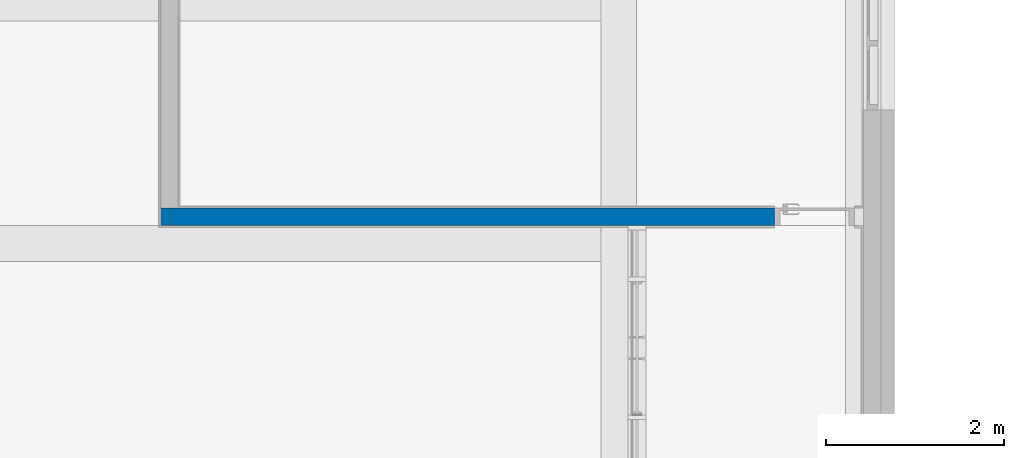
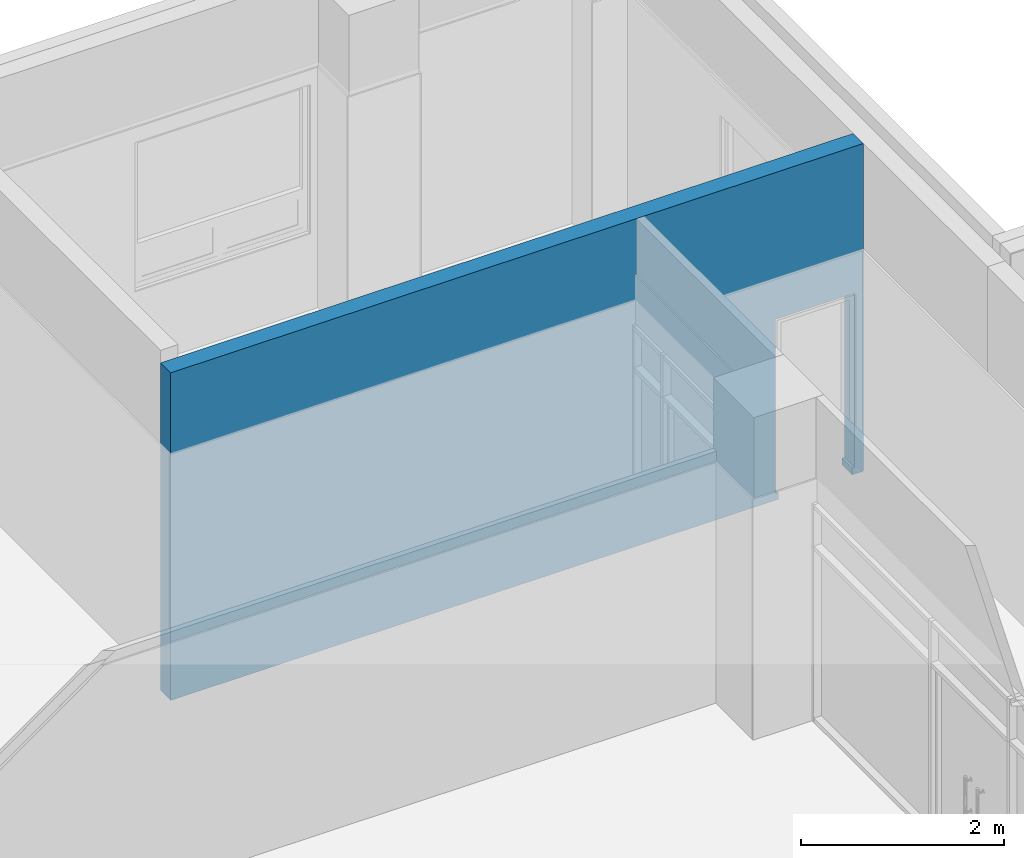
# One storey, part 49 of 76: 1 wall, 2 openings.
"""IFC2X3 building model written with IfcOpenShell, lengths in millimetres."""

from ifc_helpers import new_model, entity, si_unit, converted_unit, derived_unit, direction, frame, frame_2d, origin, place, context, subcontext, project, spatial, polyline, rectangle, extrude, clip, bounded_halfspace, material, layer, layer_set, layer_usage, type_object, element, save


model = new_model("IFC2X3")

# Units and contexts
model_context = context("Model", 3, precision=0.01, world=origin(), true_north=direction((6.123031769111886e-17, 1.0)))
body_context = subcontext(model_context, "Body", "Model", "MODEL_VIEW")
ifc_project = project(units=[si_unit("LENGTHUNIT", "METRE", prefix="MILLI"), si_unit("AREAUNIT", "SQUARE_METRE"), si_unit("VOLUMEUNIT", "CUBIC_METRE"), converted_unit("PLANEANGLEUNIT", "DEGREE", entity("IfcRatioMeasure", 0.017453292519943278), si_unit("PLANEANGLEUNIT", "RADIAN"), dimensions=[0, 0, 0, 0, 0, 0, 0]), si_unit("MASSUNIT", "GRAM", prefix="KILO"), derived_unit("MASSDENSITYUNIT", [(si_unit("MASSUNIT", "GRAM", prefix="KILO"), 1), (si_unit("LENGTHUNIT", "METRE"), -3)]), derived_unit("MOMENTOFINERTIAUNIT", [(si_unit("LENGTHUNIT", "METRE"), 4)]), si_unit("TIMEUNIT", "SECOND"), si_unit("FREQUENCYUNIT", "HERTZ"), si_unit("THERMODYNAMICTEMPERATUREUNIT", "DEGREE_CELSIUS"), derived_unit("THERMALTRANSMITTANCEUNIT", [(si_unit("MASSUNIT", "GRAM", prefix="KILO"), 1), (si_unit("THERMODYNAMICTEMPERATUREUNIT", "KELVIN"), -1), (si_unit("TIMEUNIT", "SECOND"), -3)]), derived_unit("VOLUMETRICFLOWRATEUNIT", [(si_unit("LENGTHUNIT", "METRE"), 3), (si_unit("TIMEUNIT", "SECOND"), -1)]), derived_unit("MASSFLOWRATEUNIT", [(si_unit("MASSUNIT", "GRAM", prefix="KILO"), 1), (si_unit("TIMEUNIT", "SECOND"), -1)]), derived_unit("ROTATIONALFREQUENCYUNIT", [(si_unit("TIMEUNIT", "SECOND"), -1)]), si_unit("ELECTRICCURRENTUNIT", "AMPERE"), si_unit("ELECTRICVOLTAGEUNIT", "VOLT"), si_unit("POWERUNIT", "WATT"), si_unit("FORCEUNIT", "NEWTON", prefix="KILO"), si_unit("ILLUMINANCEUNIT", "LUX"), si_unit("LUMINOUSFLUXUNIT", "LUMEN"), si_unit("LUMINOUSINTENSITYUNIT", "CANDELA"), derived_unit("USERDEFINED", [(si_unit("MASSUNIT", "GRAM", prefix="KILO"), -1), (si_unit("LENGTHUNIT", "METRE"), -2), (si_unit("TIMEUNIT", "SECOND"), 3), (si_unit("LUMINOUSFLUXUNIT", "LUMEN"), 1)]), derived_unit("SOUNDPOWERUNIT", [(si_unit("MASSUNIT", "GRAM", prefix="KILO"), 1), (si_unit("LENGTHUNIT", "METRE"), 2), (si_unit("TIMEUNIT", "SECOND"), -3)]), derived_unit("SOUNDPRESSUREUNIT", [(si_unit("MASSUNIT", "GRAM", prefix="KILO"), 1), (si_unit("LENGTHUNIT", "METRE"), -1), (si_unit("TIMEUNIT", "SECOND"), -2)]), derived_unit("LINEARVELOCITYUNIT", [(si_unit("LENGTHUNIT", "METRE"), 1), (si_unit("TIMEUNIT", "SECOND"), -1)]), si_unit("PRESSUREUNIT", "PASCAL"), derived_unit("USERDEFINED", [(si_unit("LENGTHUNIT", "METRE"), -2), (si_unit("MASSUNIT", "GRAM", prefix="KILO"), 1), (si_unit("TIMEUNIT", "SECOND"), -2)]), derived_unit("LINEARFORCEUNIT", [(si_unit("MASSUNIT", "GRAM", prefix="KILO"), 1), (si_unit("LENGTHUNIT", "METRE"), 1), (si_unit("TIMEUNIT", "SECOND"), -2), (si_unit("LENGTHUNIT", "METRE"), -1)]), derived_unit("PLANARFORCEUNIT", [(si_unit("MASSUNIT", "GRAM", prefix="KILO"), 1), (si_unit("LENGTHUNIT", "METRE"), 1), (si_unit("TIMEUNIT", "SECOND"), -2), (si_unit("LENGTHUNIT", "METRE"), -2)])], contexts=[model_context])

# Site, building, storey
site_placement = place(None, frame((-14167.972527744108, -657.2125860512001, 0.0)))
site = spatial("IfcSite", under=ifc_project, at=site_placement, Name="Default", CompositionType="ELEMENT")
building_placement = place(site_placement, origin())
building = spatial("IfcBuilding", under=site, at=building_placement, Name="Sample Building", CompositionType="ELEMENT")
storey_placement = place(building_placement, frame((0.0, 0.0, 9300.0)))
storey = spatial("IfcBuildingStorey", under=building, at=storey_placement, Name="지상 3층", CompositionType="ELEMENT", Elevation=9300.000000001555)

# Wall, openings
ifc_material = material(Name="KBIMS-콘크리트")
ifc_layer = layer(ifc_material, 200.0)
ifc_layer_set = layer_set([ifc_layer], Name="기본 벽:WA111-철근콘크리트구조 벽 200mm_CW1")
ifc_layer_usage = layer_usage(ifc_layer_set, "AXIS2", "NEGATIVE", 100.0)
wall_type = type_object("IfcWallType", Name="기본 벽:WA111-철근콘크리트구조 벽 200mm_CW1", PredefinedType="STANDARD", material=ifc_layer_set)
wall_placement = place(storey_placement, frame((30067.96376153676, 30607.21227524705, 0.0), z_axis=(0.0, 0.0, 1.0), x_axis=(-1.0, 0.0, 0.0)))
wall = element("IfcWallStandardCase", 1, at=wall_placement, inside=storey, type_object=wall_type, material=ifc_layer_usage, Name="기본 벽:WA111-철근콘크리트구조 벽 200mm_CW1", ObjectType="기본 벽:WA111-철근콘크리트구조 벽 200mm_CW1", context=body_context, shape_type="Clipping", body=[
    clip(extrude(rectangle(XDim=199.99999999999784, YDim=7899.991270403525, at=frame_2d((3949.9956352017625, 2.5579538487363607e-13), x_axis=(0.0, 1.0))), origin(), (0.0, 0.0, 1.0), 3950.000000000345), bounded_halfspace(frame((7899.991270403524, -100.0, 3950.0), z_axis=(0.0, 0.0, -1.0), x_axis=(-1.0, 0.0, 0.0)), True, frame((7899.991270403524, -100.0, 3950.0), z_axis=(0.0, 0.0, -1.0), x_axis=(-1.0, 0.0, 0.0)), polyline([(0.0, 0.0), (2407917.3392189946, 8.073857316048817e-09), (2407917.3392189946, 60960.0), (1645914.7007568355, 60960.0), (1618482.700756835, 60960.0), (0.0, 60960.0), (0.0, 0.0)]))),
])
opening_1_placement = place(storey_placement, frame((30067.96376153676, 30607.21227524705, 0.0), z_axis=(0.0, 0.0, 1.0), x_axis=(-1.0, 0.0, 0.0)))
element("IfcOpeningElement", 2, at=opening_1_placement, cuts=wall, Name="기본 벽:WA111-철근콘크리트구조 벽 200mm_CW1:1", ObjectType="Opening", context=body_context, shape_type="SweptSolid", body=[
    extrude(rectangle(XDim=80.00000000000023, YDim=199.99999999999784, at=frame_2d((5.435651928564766e-13, -4.334310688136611e-12), x_axis=(1.0, 0.0))), frame((970.0, 0.0, 40.0), z_axis=(-1.0, 0.0, 0.0), x_axis=(0.0, 0.0, 1.0)), (0.0, 0.0, 1.0), 839.9999999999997),
])
opening_2_placement = place(wall_placement, frame((1000.0, 100.0, 80.0)))
element("IfcOpeningElement", 3, at=opening_2_placement, cuts=wall, Name="DR111-외여닫이문(철재, 일반):DR111-외여닫이문(철재, 일반) 900x2100mm:1", ObjectType="Opening", context=body_context, shape_type="SweptSolid", body=[
    extrude(rectangle(XDim=2099.999999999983, YDim=900.0000000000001, at=frame_2d((1049.999999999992, 450.00000000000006), x_axis=(1.0, 0.0))), frame((0.0, 0.0, 0.0), z_axis=(0.0, -1.0, 0.0), x_axis=(0.0, 0.0, 1.0)), (0.0, 0.0, 1.0), 200.0),
])

save(model, "model.ifc")
